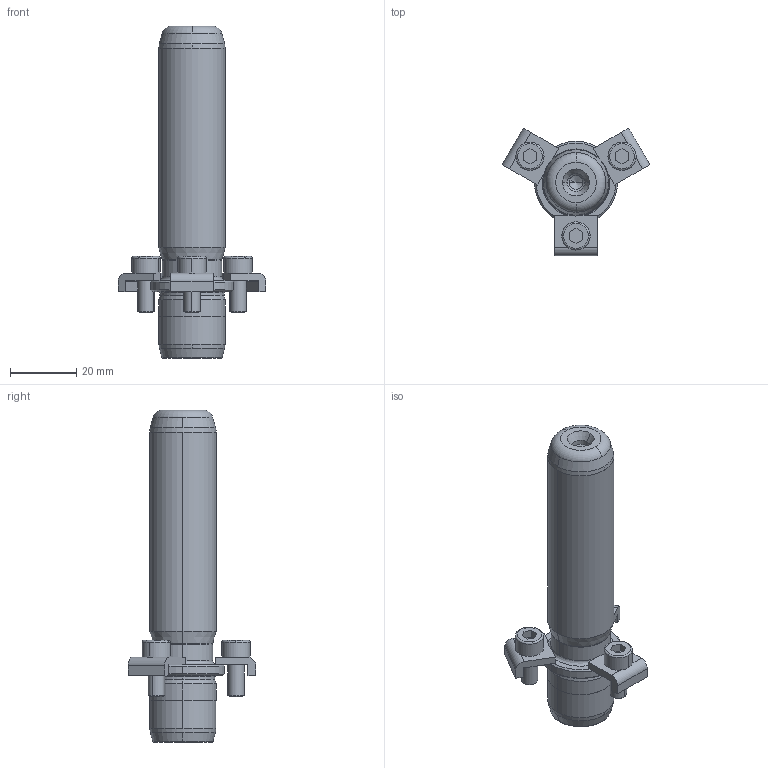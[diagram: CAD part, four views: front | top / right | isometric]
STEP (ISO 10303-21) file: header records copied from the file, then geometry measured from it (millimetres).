
FILE_DESCRIPTION((''),'2;1');
FILE_NAME('P21_020_080.stp','2008-12-18T10:54:35',(''),(''),'Mechanical Desktop 2009','Mechanical Desktop 2009',', , ');
FILE_SCHEMA(('CONFIG_CONTROL_DESIGN'));
Length unit declared in the file: millimetre
Products named in the file (2): Product; blmdl1
Assembly tree (1 placements, depth 2):
  Product
    blmdl1
Bounding box: 44.46 x 38.5 x 100 mm (x, y, z)
Volume: 32974.5 mm3; surface area: 10386.2 mm2
Topology: 7 solids, 7 shells, 169 faces, 417 edges, 269 vertices
Faces by surface type: plane 62, cylinder 47, cone 32, bspline 18, torus 10
Entity records: 5881 total; most frequent: CARTESIAN_POINT 1645, DIRECTION 936, ORIENTED_EDGE 826, EDGE_CURVE 413, AXIS2_PLACEMENT_3D 370, VERTEX_POINT 269, CIRCLE 217, VECTOR 196
